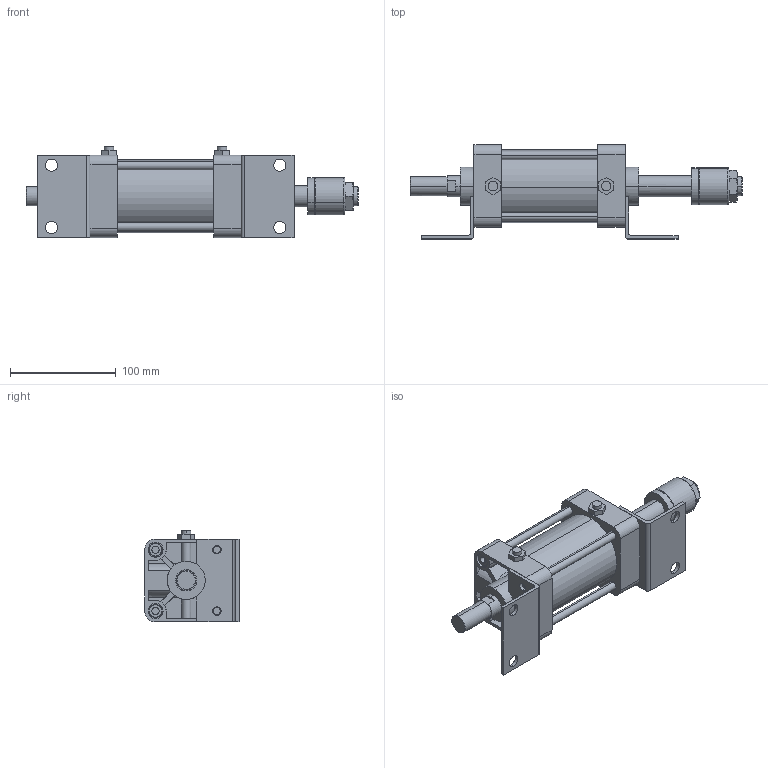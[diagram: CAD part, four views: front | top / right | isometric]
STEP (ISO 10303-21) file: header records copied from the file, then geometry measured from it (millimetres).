
FILE_DESCRIPTION (( 'STEP AP203' ), '1' );
FILE_NAME ('KGA7-63#-50-L.STEP', '2016-04-14T07:51:46', ( '' ), ( '' ), 'SwSTEP 2.0', 'SolidWorks 2014', '' );
FILE_SCHEMA (( 'CONFIG_CONTROL_DESIGN' ));
Length unit declared in the file: millimetre
Products named in the file (9): K#7-63-50-After; KGA7-63#-50-L; KGA7-50(63)-Turn; KGLH2-63-50; K-63-L
Assembly tree (19 placements, depth 2):
  KGA7-63#-50-L
    K#7-63-50-After
    KGLH2-63-50
    (unnamed)
    (unnamed)  x4
    (unnamed)  x8
    K-63-L  x2
    KGA7-50(63)-Turn
    (unnamed)
Bounding box: 314 x 89 x 86.3 mm (x, y, z)
Volume: 704765 mm3; surface area: 163403.1 mm2
Topology: 19 solids, 19 shells, 409 faces, 972 edges, 620 vertices
Faces by surface type: plane 177, cylinder 158, torus 46, cone 28
Entity records: 10410 total; most frequent: CARTESIAN_POINT 1906, DIRECTION 1600, ORIENTED_EDGE 1456, EDGE_CURVE 728, AXIS2_PLACEMENT_3D 607, VERTEX_POINT 474, LINE 386, VECTOR 386
